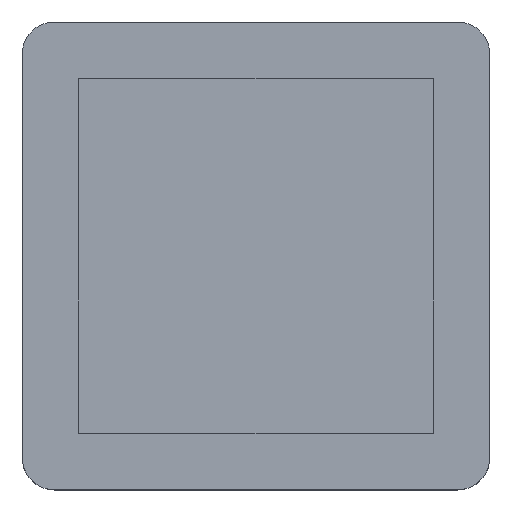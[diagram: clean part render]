
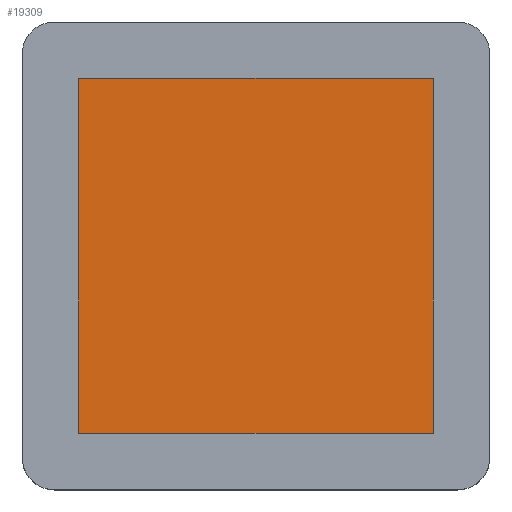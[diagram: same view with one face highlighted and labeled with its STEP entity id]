
A CAD part, top view. The second image highlights one B-rep face of the part: STEP entity #19309.
In plain terms, the highlighted free-form (B-spline) face has degree [1, 1] with [2, 2] control points.
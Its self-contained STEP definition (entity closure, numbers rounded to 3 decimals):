
#19192 = VERTEX_POINT('',#19193);
#19193 = CARTESIAN_POINT('',(-25.,-25.,14.));
#19206 = VERTEX_POINT('',#19207);
#19207 = CARTESIAN_POINT('',(-25.,25.,14.));
#19212 = EDGE_CURVE('',#19192,#19206,#19213,.T.);
#19213 = B_SPLINE_CURVE_WITH_KNOTS('',1,(#19214,#19215),.UNSPECIFIED.,
  .F.,.F.,(2,2),(0.,50.),.PIECEWISE_BEZIER_KNOTS.);
#19214 = CARTESIAN_POINT('',(-25.,-25.,14.));
#19215 = CARTESIAN_POINT('',(-25.,25.,14.));
#19228 = VERTEX_POINT('',#19229);
#19229 = CARTESIAN_POINT('',(25.,-25.,14.));
#19242 = VERTEX_POINT('',#19243);
#19243 = CARTESIAN_POINT('',(25.,25.,14.));
#19248 = EDGE_CURVE('',#19228,#19242,#19249,.T.);
#19249 = B_SPLINE_CURVE_WITH_KNOTS('',1,(#19250,#19251),.UNSPECIFIED.,
  .F.,.F.,(2,2),(0.,50.),.PIECEWISE_BEZIER_KNOTS.);
#19250 = CARTESIAN_POINT('',(25.,-25.,14.));
#19251 = CARTESIAN_POINT('',(25.,25.,14.));
#19267 = EDGE_CURVE('',#19192,#19228,#19268,.T.);
#19268 = B_SPLINE_CURVE_WITH_KNOTS('',1,(#19269,#19270),.UNSPECIFIED.,
  .F.,.F.,(2,2),(0.,50.),.PIECEWISE_BEZIER_KNOTS.);
#19269 = CARTESIAN_POINT('',(-25.,-25.,14.));
#19270 = CARTESIAN_POINT('',(25.,-25.,14.));
#19287 = EDGE_CURVE('',#19206,#19242,#19288,.T.);
#19288 = B_SPLINE_CURVE_WITH_KNOTS('',1,(#19289,#19290),.UNSPECIFIED.,
  .F.,.F.,(2,2),(0.,50.),.PIECEWISE_BEZIER_KNOTS.);
#19289 = CARTESIAN_POINT('',(-25.,25.,14.));
#19290 = CARTESIAN_POINT('',(25.,25.,14.));
#19309 = ADVANCED_FACE('',(#19310),#19316,.T.);
#19310 = FACE_BOUND('',#19311,.T.);
#19311 = EDGE_LOOP('',(#19312,#19313,#19314,#19315));
#19312 = ORIENTED_EDGE('',*,*,#19212,.F.);
#19313 = ORIENTED_EDGE('',*,*,#19267,.T.);
#19314 = ORIENTED_EDGE('',*,*,#19248,.T.);
#19315 = ORIENTED_EDGE('',*,*,#19287,.F.);
#19316 = B_SPLINE_SURFACE_WITH_KNOTS('',1,1,(
    (#19317,#19318)
    ,(#19319,#19320
    )),.UNSPECIFIED.,.F.,.F.,.F.,(2,2),(2,2),(0.,50.),(0.,50.),
  .PIECEWISE_BEZIER_KNOTS.);
#19317 = CARTESIAN_POINT('',(-25.,-25.,14.));
#19318 = CARTESIAN_POINT('',(-25.,25.,14.));
#19319 = CARTESIAN_POINT('',(25.,-25.,14.));
#19320 = CARTESIAN_POINT('',(25.,25.,14.));
